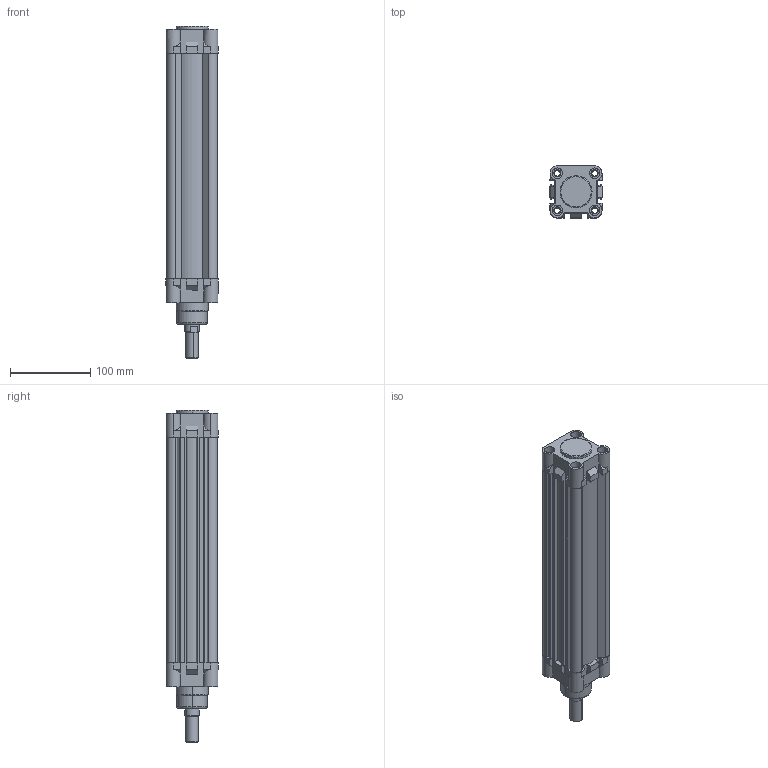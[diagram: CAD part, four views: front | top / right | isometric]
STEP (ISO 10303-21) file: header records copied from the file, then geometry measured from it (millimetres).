
FILE_DESCRIPTION (( 'STEP AP214' ), '1' );
FILE_NAME ('RIC50_250_MY_WEB.STEP', '2020-07-05T17:32:36', ( '' ), ( '' ), 'SwSTEP 2.0', 'SolidWorks 2018', '' );
FILE_SCHEMA (( 'AUTOMOTIVE_DESIGN' ));
Length unit declared in the file: millimetre
Products named in the file (6): 50_ON_KAPAK_WEB; 50_BORU; 20_MIL_WEB; 50bogazkecesi; RIC50_250_MY_WEB; 50_ARKA_KAPAK_WEB
Assembly tree (5 placements, depth 2):
  RIC50_250_MY_WEB
    50_BORU
    50_ARKA_KAPAK_WEB
    50_ON_KAPAK_WEB
    20_MIL_WEB
    50bogazkecesi
Bounding box: 65 x 65 x 415 mm (x, y, z)
Volume: 597999 mm3; surface area: 233570.7 mm2
Topology: 5 solids, 5 shells, 576 faces, 1465 edges, 952 vertices
Faces by surface type: plane 265, cylinder 172, bspline 83, cone 40, torus 16
Entity records: 23952 total; most frequent: CARTESIAN_POINT 8155, ORIENTED_EDGE 2930, DIRECTION 2697, EDGE_CURVE 1465, VERTEX_POINT 952, AXIS2_PLACEMENT_3D 919, VECTOR 859, LINE 859
